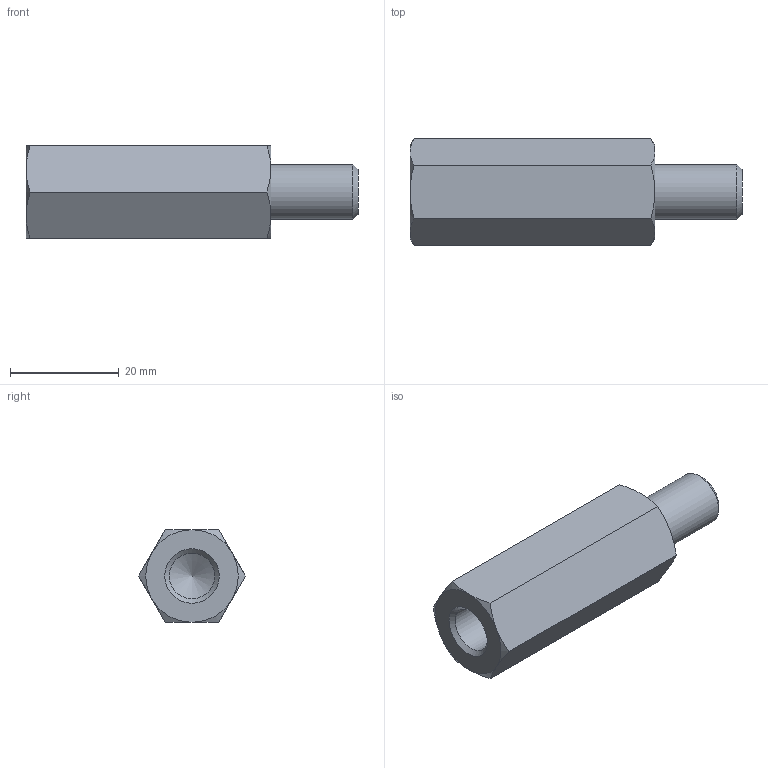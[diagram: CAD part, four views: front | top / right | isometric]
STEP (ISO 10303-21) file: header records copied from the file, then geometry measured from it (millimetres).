
FILE_DESCRIPTION( ( 'STEP AP203' ), '1' );
FILE_NAME( 'C:/Temp/Ganter_Step_05_03_2020/data/3_2/gn6220/gn6220_ni/Stainless Steel-Spacer GN 6220-NI-M10-45-B.stp', '2020-03-13T05:43:21', ( 'License CC BY-ND 4.0' ), ( 'CADENAS' ), ' ', 'PARTsolutions', ' ' );
FILE_SCHEMA( ( 'CONFIG_CONTROL_DESIGN' ) );
Length unit declared in the file: millimetre
Products named in the file (1): _Stainless Steel-Spacer GN 6220-NI-M10-45-B
Bounding box: 61 x 19.63 x 17 mm (x, y, z)
Volume: 11046.7 mm3; surface area: 4275 mm2
Topology: 1 solids, 1 shells, 26 faces, 55 edges, 32 vertices
Faces by surface type: cone 15, plane 9, cylinder 2
Full cylindrical faces by diameter (mm): 8.376 x1, 10 x1
Entity records: 778 total; most frequent: CARTESIAN_POINT 242, DIRECTION 96, ORIENTED_EDGE 96, EDGE_CURVE 48, AXIS2_PLACEMENT_3D 45, EDGE_LOOP 32, VERTEX_POINT 31, FACE_OUTER_BOUND 28
